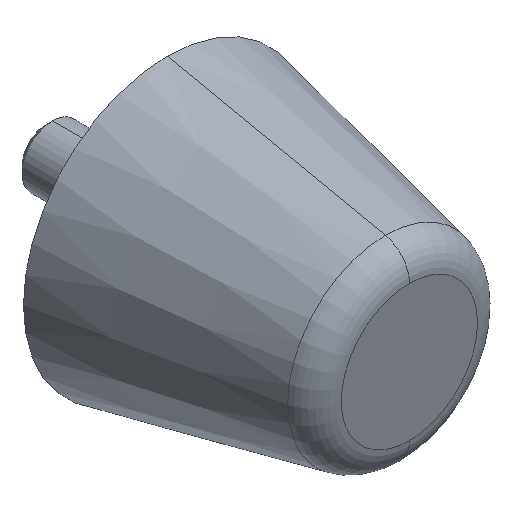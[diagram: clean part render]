
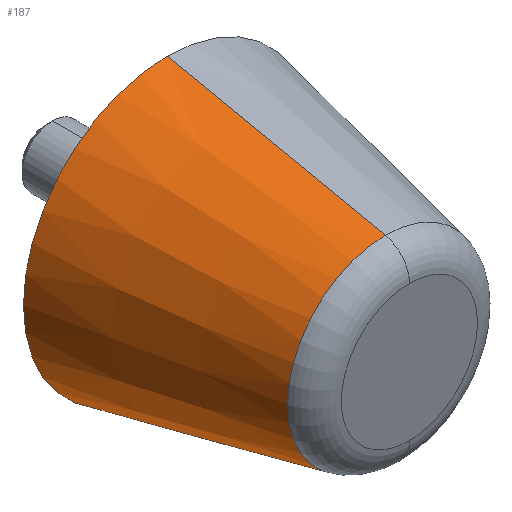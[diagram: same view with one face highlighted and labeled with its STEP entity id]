
A CAD part, isometric view. The second image highlights one B-rep face of the part: STEP entity #187.
In plain terms, the highlighted conical face has half-angle 11.911 degrees and reference radius 12.25 mm.
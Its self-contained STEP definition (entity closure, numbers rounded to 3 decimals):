
#2 = ORIENTED_EDGE ( 'NONE', *, *, #454, .T. ) ;
#14 = CIRCLE ( 'NONE', #146, 19. ) ;
#37 = DIRECTION ( 'NONE',  ( 0., 0., -1. ) ) ;
#75 = VERTEX_POINT ( 'NONE', #234 ) ;
#93 = DIRECTION ( 'NONE',  ( 0., 0., 1. ) ) ;
#126 = CARTESIAN_POINT ( 'NONE',  ( 0., 32., 0. ) ) ;
#146 = AXIS2_PLACEMENT_3D ( 'NONE', #126, #305, #466 ) ;
#150 = CARTESIAN_POINT ( 'NONE',  ( 0., 3.174, 12.92 ) ) ;
#162 = DIRECTION ( 'NONE',  ( 0., 0.978, 0.206 ) ) ;
#187 = ADVANCED_FACE ( 'NONE', ( #272 ), #438, .T. ) ;
#199 = VECTOR ( 'NONE', #162, 1000. ) ;
#206 = LINE ( 'NONE', #351, #299 ) ;
#210 = DIRECTION ( 'NONE',  ( 0., 1., 0. ) ) ;
#211 = LINE ( 'NONE', #369, #199 ) ;
#234 = CARTESIAN_POINT ( 'NONE',  ( 0., 32., 19. ) ) ;
#256 = ORIENTED_EDGE ( 'NONE', *, *, #471, .T. ) ;
#263 = ORIENTED_EDGE ( 'NONE', *, *, #448, .T. ) ;
#272 = FACE_OUTER_BOUND ( 'NONE', #444, .T. ) ;
#277 = AXIS2_PLACEMENT_3D ( 'NONE', #278, #314, #93 ) ;
#278 = CARTESIAN_POINT ( 'NONE',  ( 0., 0., 0. ) ) ;
#299 = VECTOR ( 'NONE', #316, 1000. ) ;
#300 = ORIENTED_EDGE ( 'NONE', *, *, #482, .F. ) ;
#305 = DIRECTION ( 'NONE',  ( 0., -1., 0. ) ) ;
#314 = DIRECTION ( 'NONE',  ( 0., 1., 0. ) ) ;
#316 = DIRECTION ( 'NONE',  ( 0., 0.978, -0.206 ) ) ;
#333 = CARTESIAN_POINT ( 'NONE',  ( 0., 3.174, -12.92 ) ) ;
#351 = CARTESIAN_POINT ( 'NONE',  ( 0., 0., -12.25 ) ) ;
#369 = CARTESIAN_POINT ( 'NONE',  ( 0., 0., 12.25 ) ) ;
#376 = CARTESIAN_POINT ( 'NONE',  ( 0., 3.174, 0. ) ) ;
#403 = VERTEX_POINT ( 'NONE', #333 ) ;
#414 = VERTEX_POINT ( 'NONE', #150 ) ;
#438 = CONICAL_SURFACE ( 'NONE', #277, 12.25, 0.208 ) ;
#444 = EDGE_LOOP ( 'NONE', ( #300, #2, #256, #263 ) ) ;
#448 = EDGE_CURVE ( 'NONE', #75, #452, #14, .T. ) ;
#452 = VERTEX_POINT ( 'NONE', #469 ) ;
#454 = EDGE_CURVE ( 'NONE', #403, #414, #475, .T. ) ;
#466 = DIRECTION ( 'NONE',  ( 0., 0., -1. ) ) ;
#469 = CARTESIAN_POINT ( 'NONE',  ( 0., 32., -19. ) ) ;
#471 = EDGE_CURVE ( 'NONE', #414, #75, #211, .T. ) ;
#475 = CIRCLE ( 'NONE', #552, 12.92 ) ;
#482 = EDGE_CURVE ( 'NONE', #403, #452, #206, .T. ) ;
#552 = AXIS2_PLACEMENT_3D ( 'NONE', #376, #210, #37 ) ;
